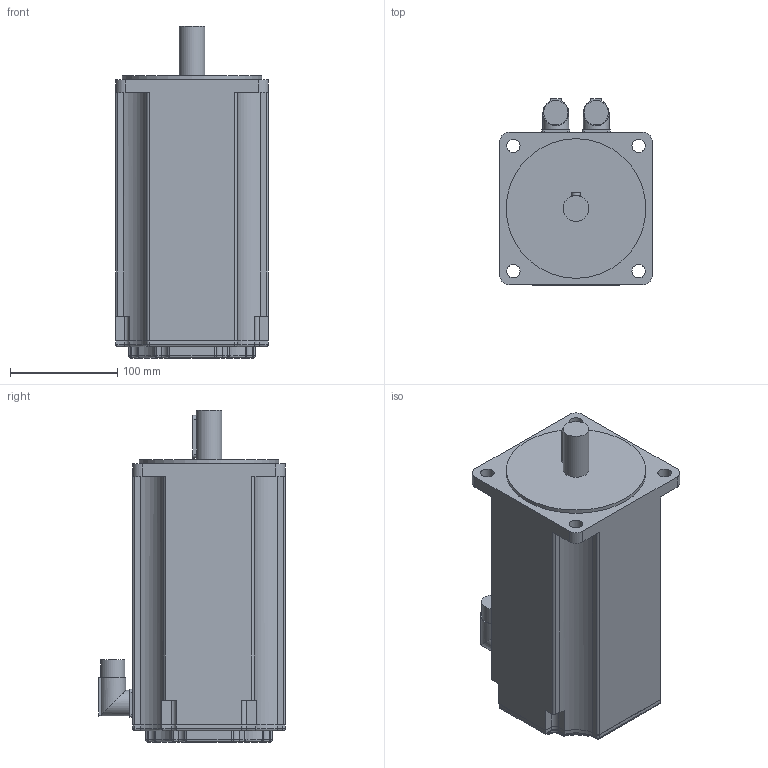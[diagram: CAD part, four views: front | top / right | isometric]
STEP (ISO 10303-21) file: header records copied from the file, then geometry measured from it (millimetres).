
FILE_DESCRIPTION(/* description */ (''),/* implementation_level */ '2;1');
FILE_NAME(/* name */ '\\Lafnas01\disegni\Archivi Lafert\3D\CAD 3D\MODELLI\Assiemi clienti\Serad\Modelli 3D Serad\B71Q\Encoder\Enc Without Brake\B7120Qxx6ARx2033.ipt.stp',/* time_stamp */ '2015-09-07T10:52:30+02:00',/* author */ ('Pastrello Ylenia'),/* organization */ (''),/* preprocessor_version */ 'ST-DEVELOPER v15.6',/* originating_system */ 'Autodesk Inventor 2015',/* authorisation */ '');
FILE_SCHEMA (('AUTOMOTIVE_DESIGN { 1 0 10303 214 3 1 1 }'));
Length unit declared in the file: millimetre
Products named in the file (1): B7120Qxx6ARx2033
Bounding box: 142 x 173.5 x 309 mm (x, y, z)
Volume: 4568411.4 mm3; surface area: 187846.3 mm2
Topology: 1 solids, 1 shells, 251 faces, 624 edges, 386 vertices
Faces by surface type: cylinder 118, plane 93, torus 20, sphere 20
Full cylindrical faces by diameter (mm): 12.5 x4, 22.7 x2, 24 x3, 130 x1
Entity records: 7508 total; most frequent: CARTESIAN_POINT 1382, DIRECTION 1362, ORIENTED_EDGE 1220, EDGE_CURVE 610, AXIS2_PLACEMENT_3D 510, VERTEX_POINT 382, LINE 342, VECTOR 342
